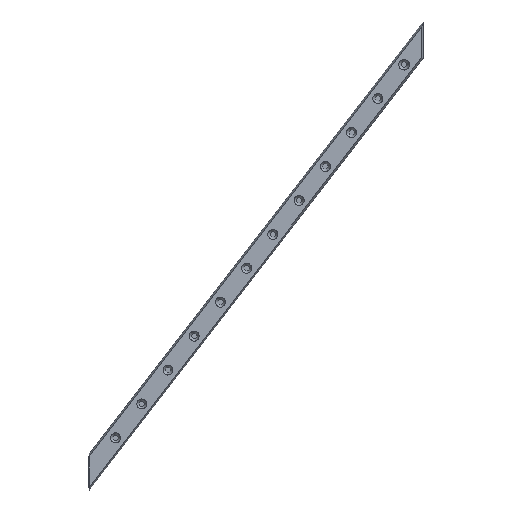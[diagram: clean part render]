
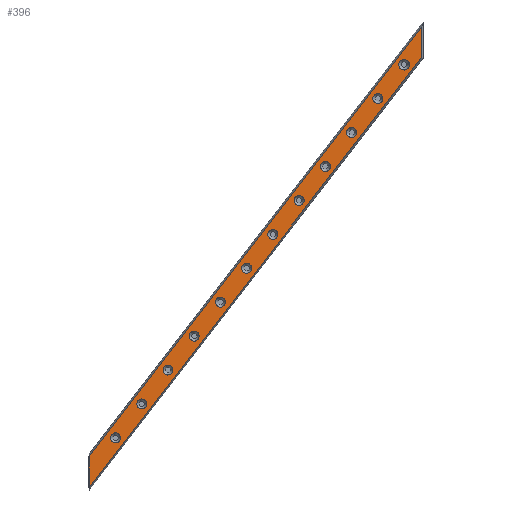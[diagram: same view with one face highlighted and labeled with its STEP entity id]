
A CAD part, front view. The second image highlights one B-rep face of the part: STEP entity #396.
In plain terms, the highlighted planar face has unit normal (0, -1, 0).
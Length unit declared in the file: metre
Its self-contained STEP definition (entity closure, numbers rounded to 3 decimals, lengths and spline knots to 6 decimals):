
#26=CIRCLE('',#438,0.002327);
#28=CIRCLE('',#445,0.0025);
#29=CIRCLE('',#447,0.002327);
#30=CIRCLE('',#448,0.002327);
#31=CIRCLE('',#449,0.002327);
#32=CIRCLE('',#450,0.002327);
#33=CIRCLE('',#451,0.002327);
#34=CIRCLE('',#452,0.002327);
#35=CIRCLE('',#453,0.002327);
#36=CIRCLE('',#454,0.002327);
#37=CIRCLE('',#455,0.002327);
#38=CIRCLE('',#456,0.002327);
#79=ORIENTED_EDGE('',*,*,#141,.F.);
#80=ORIENTED_EDGE('',*,*,#157,.F.);
#81=ORIENTED_EDGE('',*,*,#158,.F.);
#82=ORIENTED_EDGE('',*,*,#159,.F.);
#83=ORIENTED_EDGE('',*,*,#160,.F.);
#84=ORIENTED_EDGE('',*,*,#161,.F.);
#85=ORIENTED_EDGE('',*,*,#162,.F.);
#86=ORIENTED_EDGE('',*,*,#163,.F.);
#87=ORIENTED_EDGE('',*,*,#164,.F.);
#88=ORIENTED_EDGE('',*,*,#165,.F.);
#89=ORIENTED_EDGE('',*,*,#166,.F.);
#90=ORIENTED_EDGE('',*,*,#152,.T.);
#91=ORIENTED_EDGE('',*,*,#143,.T.);
#92=ORIENTED_EDGE('',*,*,#148,.T.);
#93=ORIENTED_EDGE('',*,*,#151,.F.);
#94=ORIENTED_EDGE('',*,*,#156,.F.);
#141=EDGE_CURVE('',#184,#184,#26,.T.);
#143=EDGE_CURVE('',#187,#186,#221,.F.);
#148=EDGE_CURVE('',#186,#190,#226,.F.);
#151=EDGE_CURVE('',#191,#190,#229,.T.);
#152=EDGE_CURVE('',#191,#187,#230,.F.);
#156=EDGE_CURVE('',#194,#194,#28,.T.);
#157=EDGE_CURVE('',#195,#195,#29,.T.);
#158=EDGE_CURVE('',#196,#196,#30,.T.);
#159=EDGE_CURVE('',#197,#197,#31,.T.);
#160=EDGE_CURVE('',#198,#198,#32,.T.);
#161=EDGE_CURVE('',#199,#199,#33,.T.);
#162=EDGE_CURVE('',#200,#200,#34,.T.);
#163=EDGE_CURVE('',#201,#201,#35,.T.);
#164=EDGE_CURVE('',#202,#202,#36,.T.);
#165=EDGE_CURVE('',#203,#203,#37,.T.);
#166=EDGE_CURVE('',#204,#204,#38,.T.);
#184=VERTEX_POINT('',#643);
#186=VERTEX_POINT('',#647);
#187=VERTEX_POINT('',#649);
#190=VERTEX_POINT('',#657);
#191=VERTEX_POINT('',#662);
#194=VERTEX_POINT('',#673);
#195=VERTEX_POINT('',#676);
#196=VERTEX_POINT('',#678);
#197=VERTEX_POINT('',#680);
#198=VERTEX_POINT('',#682);
#199=VERTEX_POINT('',#684);
#200=VERTEX_POINT('',#686);
#201=VERTEX_POINT('',#688);
#202=VERTEX_POINT('',#690);
#203=VERTEX_POINT('',#692);
#204=VERTEX_POINT('',#694);
#221=LINE('',#648,#239);
#226=LINE('',#658,#244);
#229=LINE('',#663,#247);
#230=LINE('',#665,#248);
#239=VECTOR('',#511,1.);
#244=VECTOR('',#518,1.);
#247=VECTOR('',#523,1.);
#248=VECTOR('',#526,1.);
#262=EDGE_LOOP('',(#79));
#263=EDGE_LOOP('',(#80));
#264=EDGE_LOOP('',(#81));
#265=EDGE_LOOP('',(#82));
#266=EDGE_LOOP('',(#83));
#267=EDGE_LOOP('',(#84));
#268=EDGE_LOOP('',(#85));
#269=EDGE_LOOP('',(#86));
#270=EDGE_LOOP('',(#87));
#271=EDGE_LOOP('',(#88));
#272=EDGE_LOOP('',(#89));
#273=EDGE_LOOP('',(#90,#91,#92,#93));
#274=EDGE_LOOP('',(#94));
#320=FACE_BOUND('',#262,.T.);
#321=FACE_BOUND('',#263,.T.);
#322=FACE_BOUND('',#264,.T.);
#323=FACE_BOUND('',#265,.T.);
#324=FACE_BOUND('',#266,.T.);
#325=FACE_BOUND('',#267,.T.);
#326=FACE_BOUND('',#268,.T.);
#327=FACE_BOUND('',#269,.T.);
#328=FACE_BOUND('',#270,.T.);
#329=FACE_BOUND('',#271,.T.);
#330=FACE_BOUND('',#272,.T.);
#331=FACE_BOUND('',#273,.T.);
#332=FACE_BOUND('',#274,.T.);
#374=PLANE('',#446);
#396=ADVANCED_FACE('',(#320,#321,#322,#323,#324,#325,#326,#327,#328,#329,#330,#331,#332),#374,.F.);
#438=AXIS2_PLACEMENT_3D('',#642,#506,#507);
#445=AXIS2_PLACEMENT_3D('',#672,#533,#534);
#446=AXIS2_PLACEMENT_3D('',#674,#535,#536);
#447=AXIS2_PLACEMENT_3D('',#675,#537,#538);
#448=AXIS2_PLACEMENT_3D('',#677,#539,#540);
#449=AXIS2_PLACEMENT_3D('',#679,#541,#542);
#450=AXIS2_PLACEMENT_3D('',#681,#543,#544);
#451=AXIS2_PLACEMENT_3D('',#683,#545,#546);
#452=AXIS2_PLACEMENT_3D('',#685,#547,#548);
#453=AXIS2_PLACEMENT_3D('',#687,#549,#550);
#454=AXIS2_PLACEMENT_3D('',#689,#551,#552);
#455=AXIS2_PLACEMENT_3D('',#691,#553,#554);
#456=AXIS2_PLACEMENT_3D('',#693,#555,#556);
#506=DIRECTION('',(0.,-1.,0.));
#507=DIRECTION('',(1.,0.,0.));
#511=DIRECTION('',(0.,0.,1.));
#518=DIRECTION('',(-0.612,0.,-0.791));
#523=DIRECTION('',(0.,0.,-1.));
#526=DIRECTION('',(0.612,0.,0.791));
#533=DIRECTION('',(0.,-1.,0.));
#534=DIRECTION('',(1.,0.,0.));
#535=DIRECTION('',(0.,1.,0.));
#536=DIRECTION('',(1.,0.,0.));
#537=DIRECTION('',(0.,-1.,0.));
#538=DIRECTION('',(1.,0.,0.));
#539=DIRECTION('',(0.,-1.,0.));
#540=DIRECTION('',(1.,0.,0.));
#541=DIRECTION('',(0.,-1.,0.));
#542=DIRECTION('',(1.,0.,0.));
#543=DIRECTION('',(0.,-1.,0.));
#544=DIRECTION('',(1.,0.,0.));
#545=DIRECTION('',(0.,-1.,0.));
#546=DIRECTION('',(1.,0.,0.));
#547=DIRECTION('',(0.,-1.,0.));
#548=DIRECTION('',(1.,0.,0.));
#549=DIRECTION('',(0.,-1.,0.));
#550=DIRECTION('',(1.,0.,0.));
#551=DIRECTION('',(0.,-1.,0.));
#552=DIRECTION('',(1.,0.,0.));
#553=DIRECTION('',(0.,-1.,0.));
#554=DIRECTION('',(1.,0.,0.));
#555=DIRECTION('',(0.,-1.,0.));
#556=DIRECTION('',(1.,0.,0.));
#642=CARTESIAN_POINT('',(-0.149079,0.4083,0.12623));
#643=CARTESIAN_POINT('',(-0.146752,0.4083,0.12623));
#647=CARTESIAN_POINT('',(-0.161423,0.4083,0.103108));
#648=CARTESIAN_POINT('',(-0.161423,0.4083,0.217977));
#649=CARTESIAN_POINT('',(-0.161423,0.4083,0.117421));
#657=CARTESIAN_POINT('',(-0.006453,0.4083,0.303533));
#658=CARTESIAN_POINT('',(-0.076845,0.4083,0.212494));
#662=CARTESIAN_POINT('',(-0.006453,0.4083,0.317847));
#663=CARTESIAN_POINT('',(-0.006453,0.4083,0.217977));
#665=CARTESIAN_POINT('',(-0.083772,0.4083,0.217849));
#672=CARTESIAN_POINT('',(-0.014508,0.4083,0.300272));
#673=CARTESIAN_POINT('',(-0.012008,0.4083,0.300272));
#674=CARTESIAN_POINT('',(-0.083483,0.4083,0.232977));
#675=CARTESIAN_POINT('',(-0.136845,0.4083,0.142052));
#676=CARTESIAN_POINT('',(-0.134518,0.4083,0.142052));
#677=CARTESIAN_POINT('',(-0.124611,0.4083,0.157874));
#678=CARTESIAN_POINT('',(-0.122285,0.4083,0.157874));
#679=CARTESIAN_POINT('',(-0.112378,0.4083,0.173696));
#680=CARTESIAN_POINT('',(-0.110051,0.4083,0.173696));
#681=CARTESIAN_POINT('',(-0.100144,0.4083,0.189518));
#682=CARTESIAN_POINT('',(-0.097817,0.4083,0.189518));
#683=CARTESIAN_POINT('',(-0.08791,0.4083,0.20534));
#684=CARTESIAN_POINT('',(-0.085583,0.4083,0.20534));
#685=CARTESIAN_POINT('',(-0.075677,0.4083,0.221162));
#686=CARTESIAN_POINT('',(-0.07335,0.4083,0.221162));
#687=CARTESIAN_POINT('',(-0.063443,0.4083,0.236984));
#688=CARTESIAN_POINT('',(-0.061116,0.4083,0.236984));
#689=CARTESIAN_POINT('',(-0.051209,0.4083,0.252806));
#690=CARTESIAN_POINT('',(-0.048882,0.4083,0.252806));
#691=CARTESIAN_POINT('',(-0.038975,0.4083,0.268628));
#692=CARTESIAN_POINT('',(-0.036649,0.4083,0.268628));
#693=CARTESIAN_POINT('',(-0.026742,0.4083,0.28445));
#694=CARTESIAN_POINT('',(-0.024415,0.4083,0.28445));
